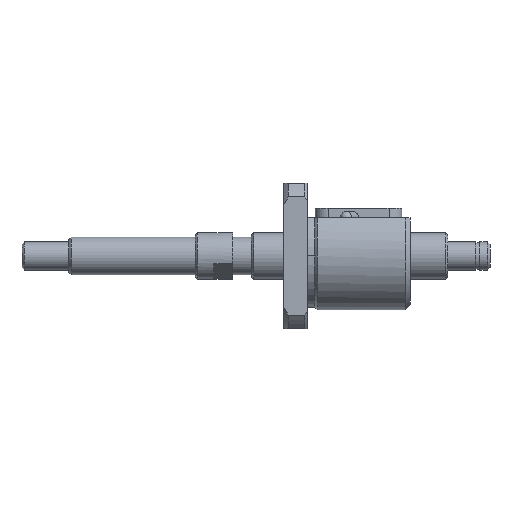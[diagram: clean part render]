
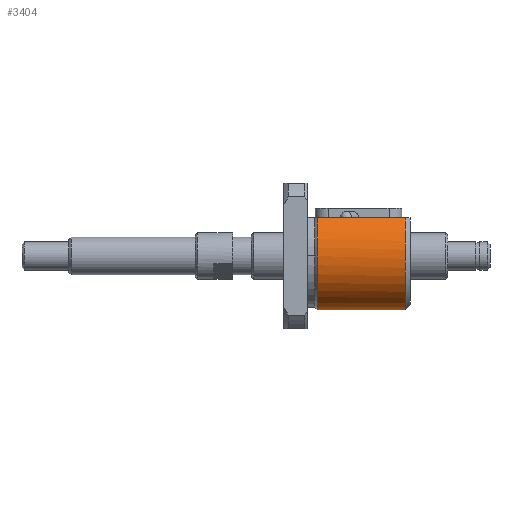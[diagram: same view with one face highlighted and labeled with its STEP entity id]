
A CAD part, front view. The second image highlights one B-rep face of the part: STEP entity #3404.
In plain terms, the highlighted cylindrical face has radius 11.5 mm (diameter 23 mm), a partial arc.
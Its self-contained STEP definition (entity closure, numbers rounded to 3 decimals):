
#28 = CARTESIAN_POINT ( 'NONE',  ( 7.121, -8.063, 8.2 ) ) ;
#62 = FACE_OUTER_BOUND ( 'NONE', #2196, .T. ) ;
#66 = VERTEX_POINT ( 'NONE', #2982 ) ;
#97 = VERTEX_POINT ( 'NONE', #3328 ) ;
#378 = DIRECTION ( 'NONE',  ( 1., 0., 0. ) ) ;
#440 = CIRCLE ( 'NONE', #1345, 11.5 ) ;
#459 = ORIENTED_EDGE ( 'NONE', *, *, #3409, .T. ) ;
#479 = EDGE_CURVE ( 'NONE', #1895, #97, #3274, .T. ) ;
#504 = LINE ( 'NONE', #3301, #1844 ) ;
#605 = AXIS2_PLACEMENT_3D ( 'NONE', #2464, #880, #2728 ) ;
#849 = CARTESIAN_POINT ( 'NONE',  ( 7.121, -11.5, 0. ) ) ;
#860 = CARTESIAN_POINT ( 'NONE',  ( 26., 0., 0. ) ) ;
#880 = DIRECTION ( 'NONE',  ( 1., 0., 0. ) ) ;
#1061 = CARTESIAN_POINT ( 'NONE',  ( 4.5, 8.063, 8.2 ) ) ;
#1136 = DIRECTION ( 'NONE',  ( 0., 0., -1. ) ) ;
#1174 = DIRECTION ( 'NONE',  ( 1., 0., 0. ) ) ;
#1180 = ORIENTED_EDGE ( 'NONE', *, *, #479, .T. ) ;
#1193 = CARTESIAN_POINT ( 'NONE',  ( 7.121, 0., 0. ) ) ;
#1254 = VERTEX_POINT ( 'NONE', #28 ) ;
#1345 = AXIS2_PLACEMENT_3D ( 'NONE', #860, #2715, #1136 ) ;
#1346 = EDGE_CURVE ( 'NONE', #66, #2503, #440, .T. ) ;
#1413 = CYLINDRICAL_SURFACE ( 'NONE', #1650, 11.5 ) ;
#1468 = DIRECTION ( 'NONE',  ( 0., 1., 0. ) ) ;
#1479 = AXIS2_PLACEMENT_3D ( 'NONE', #1193, #3036, #1468 ) ;
#1571 = CARTESIAN_POINT ( 'NONE',  ( 26., -8.063, 8.2 ) ) ;
#1628 = EDGE_CURVE ( 'NONE', #3424, #66, #1670, .T. ) ;
#1650 = AXIS2_PLACEMENT_3D ( 'NONE', #1713, #1982, #3300 ) ;
#1670 = LINE ( 'NONE', #1061, #3069 ) ;
#1713 = CARTESIAN_POINT ( 'NONE',  ( 27., 0., 0. ) ) ;
#1800 = ORIENTED_EDGE ( 'NONE', *, *, #1346, .T. ) ;
#1844 = VECTOR ( 'NONE', #378, 1000. ) ;
#1886 = ORIENTED_EDGE ( 'NONE', *, *, #1945, .T. ) ;
#1895 = VERTEX_POINT ( 'NONE', #849 ) ;
#1945 = EDGE_CURVE ( 'NONE', #97, #3424, #2160, .T. ) ;
#1982 = DIRECTION ( 'NONE',  ( -1., 0., 0. ) ) ;
#2085 = EDGE_CURVE ( 'NONE', #1254, #2503, #504, .T. ) ;
#2117 = CIRCLE ( 'NONE', #1479, 11.5 ) ;
#2160 = CIRCLE ( 'NONE', #605, 11.5 ) ;
#2196 = EDGE_LOOP ( 'NONE', ( #1800, #2495, #459, #1180, #1886, #3292 ) ) ;
#2250 = CARTESIAN_POINT ( 'NONE',  ( 7.121, 8.063, 8.2 ) ) ;
#2281 = AXIS2_PLACEMENT_3D ( 'NONE', #2751, #1174, #3017 ) ;
#2464 = CARTESIAN_POINT ( 'NONE',  ( 7.121, 0., 0. ) ) ;
#2495 = ORIENTED_EDGE ( 'NONE', *, *, #2085, .F. ) ;
#2503 = VERTEX_POINT ( 'NONE', #1571 ) ;
#2646 = DIRECTION ( 'NONE',  ( 1., 0., 0. ) ) ;
#2715 = DIRECTION ( 'NONE',  ( -1., 0., 0. ) ) ;
#2728 = DIRECTION ( 'NONE',  ( 0., 1., 0. ) ) ;
#2751 = CARTESIAN_POINT ( 'NONE',  ( 7.121, 0., 0. ) ) ;
#2982 = CARTESIAN_POINT ( 'NONE',  ( 26., 8.063, 8.2 ) ) ;
#3017 = DIRECTION ( 'NONE',  ( 0., 1., 0. ) ) ;
#3036 = DIRECTION ( 'NONE',  ( 1., 0., 0. ) ) ;
#3069 = VECTOR ( 'NONE', #2646, 1000. ) ;
#3274 = CIRCLE ( 'NONE', #2281, 11.5 ) ;
#3292 = ORIENTED_EDGE ( 'NONE', *, *, #1628, .T. ) ;
#3300 = DIRECTION ( 'NONE',  ( 0., 0., 1. ) ) ;
#3301 = CARTESIAN_POINT ( 'NONE',  ( 4.5, -8.063, 8.2 ) ) ;
#3328 = CARTESIAN_POINT ( 'NONE',  ( 7.121, 11.5, 0. ) ) ;
#3404 = ADVANCED_FACE ( 'NONE', ( #62 ), #1413, .T. ) ;
#3409 = EDGE_CURVE ( 'NONE', #1254, #1895, #2117, .T. ) ;
#3424 = VERTEX_POINT ( 'NONE', #2250 ) ;
